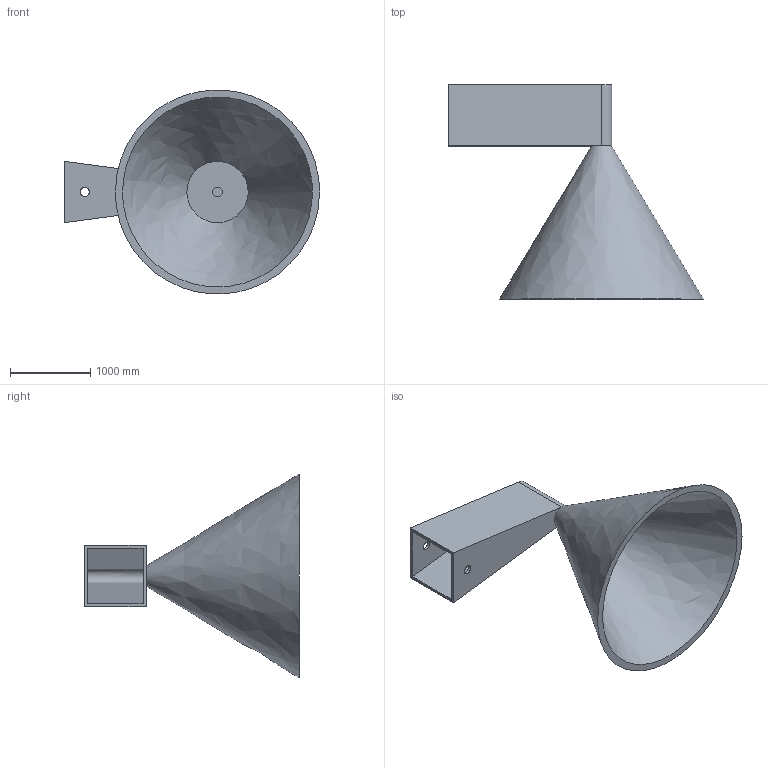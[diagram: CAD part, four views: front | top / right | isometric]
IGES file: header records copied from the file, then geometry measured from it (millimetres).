
Global section: file name: Apollo Aluminum Wall Lamp; native system: AutoCAD 2022 - 简体中文 (Simplified Chinese),62HAuto; preprocessor: desk Translation Framework DWG producer (atf_dwg_producer); organization: unknown; date: 20250930.143152; units: inch
Bounding box: 3175 x 2667 x 2536.31 mm (x, y, z)
Volume: 906644434.1 mm3; surface area: 29849664.4 mm2
Topology: 3 solids, 3 shells, 22 faces, 46 edges, 32 vertices
Faces by surface type: bspline 22
